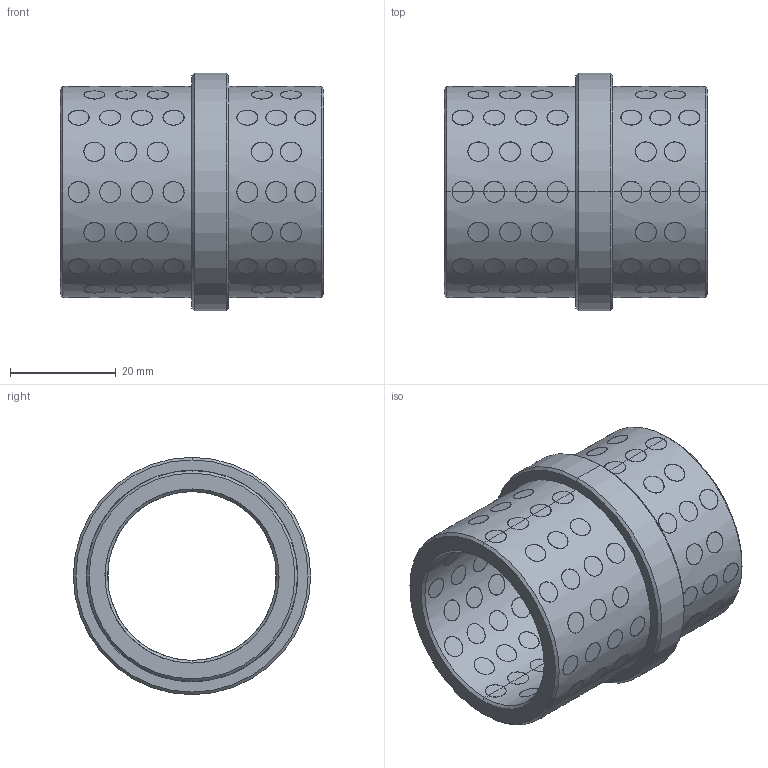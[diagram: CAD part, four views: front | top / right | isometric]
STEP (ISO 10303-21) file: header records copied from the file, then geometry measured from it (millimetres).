
FILE_DESCRIPTION(('CATIA V5 STEP Exchange'),'2;1');
FILE_NAME('C:\Users\Utente\Desktop\3D files G403\G4033250.stp','2020-04-22T08:51:12+00:00',('none'),('none'),'CATIA Version 5 Release 20 GA (IN-10)','CATIA V5 STEP AP203','none');
FILE_SCHEMA(('CONFIG_CONTROL_DESIGN'));
Products named in the file (1): G4033250
Bounding box: 50 x 45 x 45 mm (x, y, z)
Surface area: 22336.6 mm2 (no closed solid volume)
Topology: 0 solids, 628 shells, 628 faces, 2736 edges, 2736 vertices
Faces by surface type: cylinder 612, revolution 12, plane 4
Entity records: 55342 total; most frequent: CARTESIAN_POINT 36429, ORIENTED_EDGE 2736, EDGE_CURVE 2736, VERTEX_POINT 2736, DIRECTION 2211, B_SPLINE_CURVE_WITH_KNOTS 1781, VECTOR 920, LINE 920
